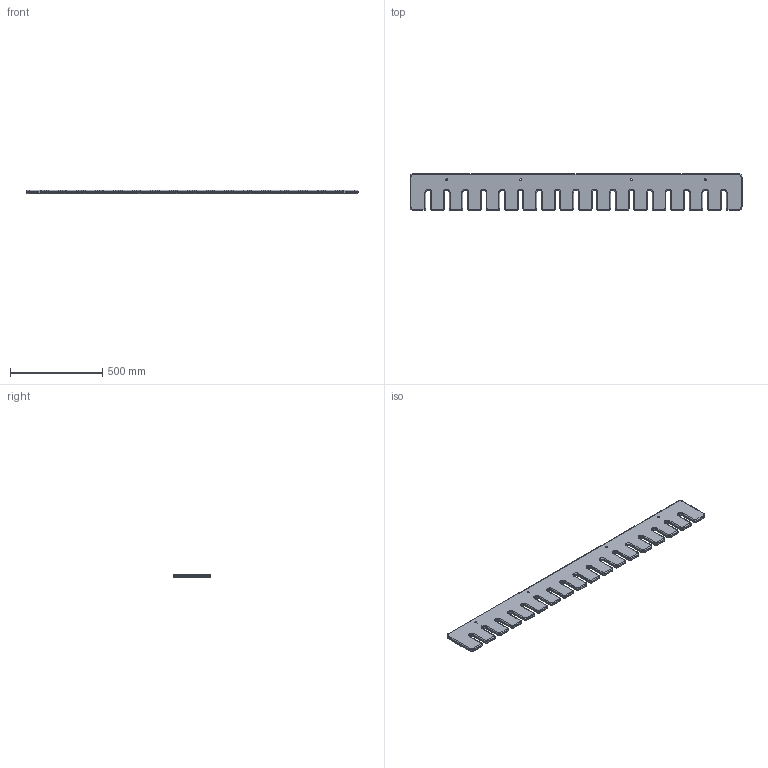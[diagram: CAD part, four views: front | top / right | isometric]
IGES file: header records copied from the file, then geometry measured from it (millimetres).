
Start section: 3D InterOp IGES (Version 23 0 1), Spatial Corp. Copyright (c) 1999-2007.
Global section: file name: Montant 1800.igs; native system: Spatial Corp.; preprocessor: 3D InterOp GENERIC/IGES 3.0; author: Noname; organization: Noname; date: 20130608.084856; units: millimetre
Bounding box: 1800 x 200 x 18 mm (x, y, z)
Surface area: 734500.9 mm2 (no closed solid volume)
Topology: 0 solids, 0 shells, 415 faces, 2034 edges, 2034 vertices
Faces by surface type: revolution 350, extrusion 65
